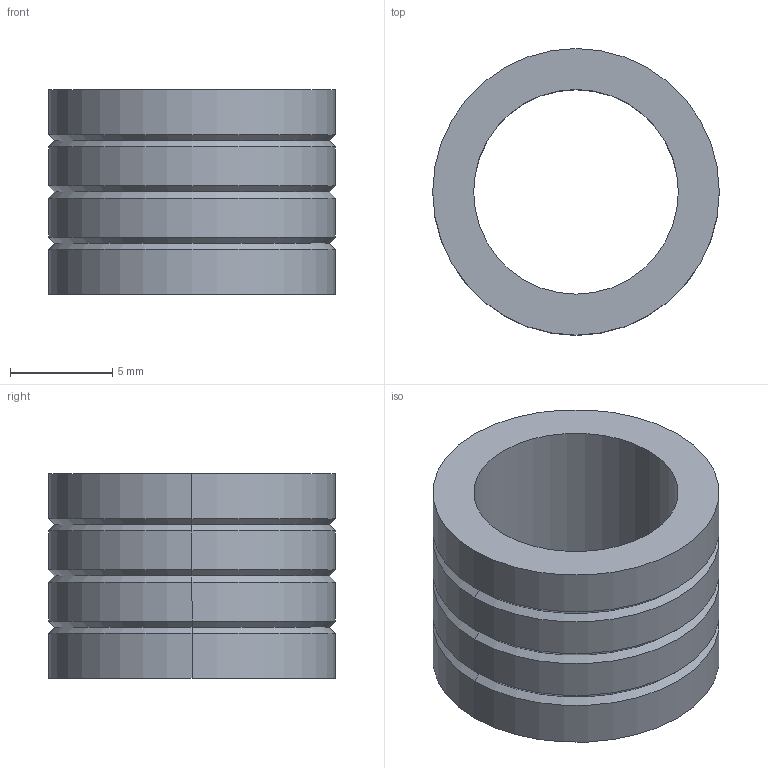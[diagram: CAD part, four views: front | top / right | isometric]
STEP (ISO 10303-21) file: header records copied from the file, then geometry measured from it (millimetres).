
FILE_DESCRIPTION(/* description */ (''),/* implementation_level */ '2;1');
FILE_NAME(/* name */ '3d_sgbl10-10_00002_r00.stp',/* time_stamp */ '2011-01-10T14:11:13+09:00',/* author */ ('MISUMI'),/* organization */ (''),/* preprocessor_version */ 'ST-DEVELOPER v11',/* originating_system */ 'UGS - NX 5.0',/* authorisation */ '');
FILE_SCHEMA (('CONFIG_CONTROL_DESIGN'));
Length unit declared in the file: millimetre
Products named in the file (1): 3d_sgbl10-10_00002_r00
Bounding box: 14 x 14 x 10 mm (x, y, z)
Volume: 742.3 mm3; surface area: 935.2 mm2
Topology: 1 solids, 1 shells, 24 faces, 48 edges, 26 vertices
Faces by surface type: cone 12, cylinder 10, plane 2
Entity records: 704 total; most frequent: DIRECTION 124, CARTESIAN_POINT 99, ORIENTED_EDGE 96, AXIS2_PLACEMENT_3D 51, EDGE_CURVE 48, EDGE_LOOP 26, VERTEX_POINT 26, CIRCLE 26
